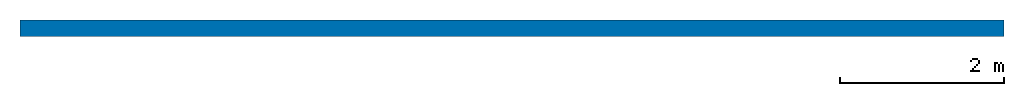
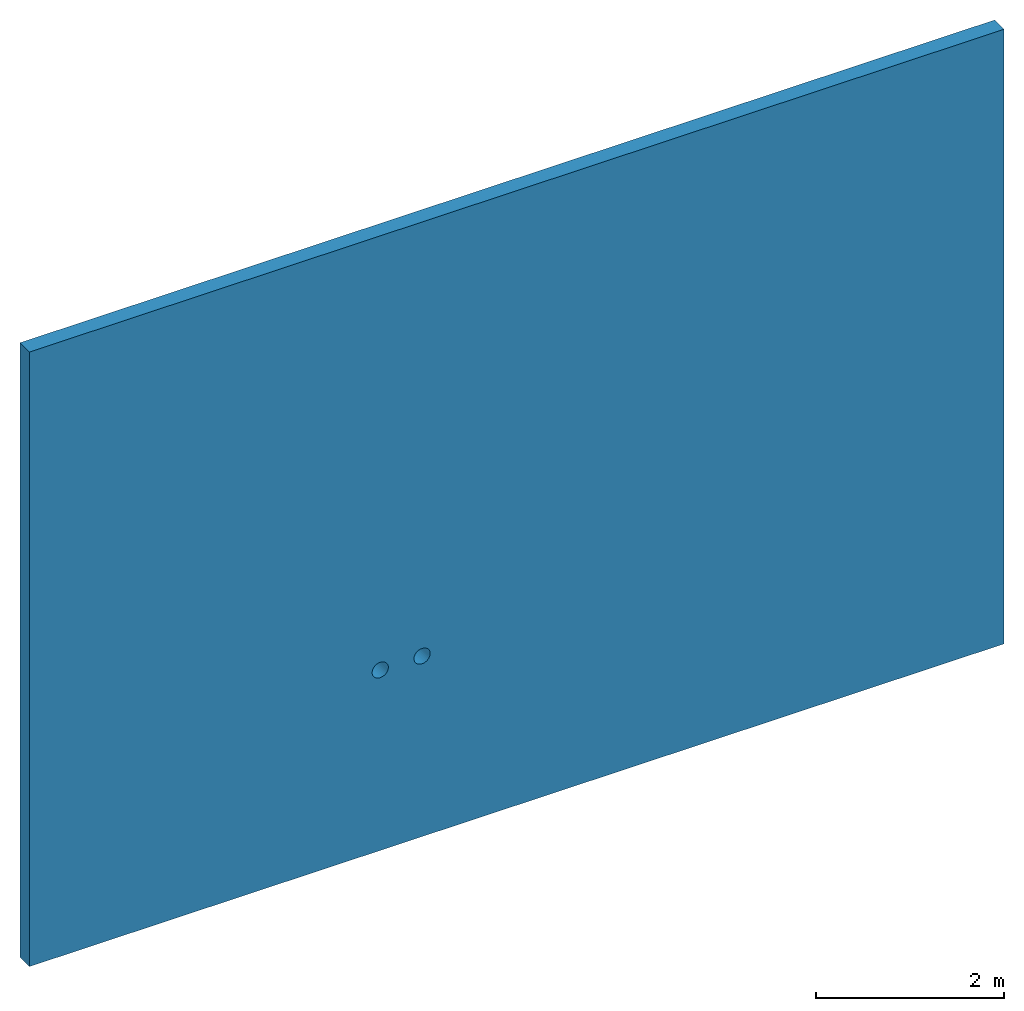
# One storey, incomplete: 1 wall, 2 openings.
"""IFC2X3 building model written with IfcOpenShell, lengths in millimetres."""

from ifc_helpers import new_model, entity, si_unit, converted_unit, derived_unit, direction, frame, frame_2d, origin, place, context, subcontext, project, spatial, rectangle, circle, extrude, material, layer, layer_set, layer_usage, type_object, element, save


model = new_model("IFC2X3")

# Units and contexts
model_context = context("Model", 3, precision=0.01, world=origin(), true_north=direction((6.12303176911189e-17, 1.0)))
context_of_model = context(None, 3, precision=0.01, world=origin(), true_north=direction((6.12303176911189e-17, 1.0)))
body_context = subcontext(model_context, "Body", "Model", "MODEL_VIEW")
ifc_project = project(units=[si_unit("LENGTHUNIT", "METRE", prefix="MILLI"), si_unit("AREAUNIT", "SQUARE_METRE"), si_unit("VOLUMEUNIT", "CUBIC_METRE"), converted_unit("PLANEANGLEUNIT", "DEGREE", entity("IfcRatioMeasure", 0.0174532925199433), si_unit("PLANEANGLEUNIT", "RADIAN"), dimensions=[0, 0, 0, 0, 0, 0, 0]), si_unit("MASSUNIT", "GRAM", prefix="KILO"), derived_unit("MASSDENSITYUNIT", [(si_unit("MASSUNIT", "GRAM", prefix="KILO"), 1), (si_unit("LENGTHUNIT", "METRE"), -3)]), si_unit("TIMEUNIT", "SECOND"), si_unit("FREQUENCYUNIT", "HERTZ"), si_unit("THERMODYNAMICTEMPERATUREUNIT", "DEGREE_CELSIUS"), derived_unit("THERMALTRANSMITTANCEUNIT", [(si_unit("MASSUNIT", "GRAM", prefix="KILO"), 1), (si_unit("THERMODYNAMICTEMPERATUREUNIT", "KELVIN"), -1), (si_unit("TIMEUNIT", "SECOND"), -3)]), derived_unit("VOLUMETRICFLOWRATEUNIT", [(si_unit("LENGTHUNIT", "METRE"), 3), (si_unit("TIMEUNIT", "SECOND"), -1)]), si_unit("ELECTRICCURRENTUNIT", "AMPERE"), si_unit("ELECTRICVOLTAGEUNIT", "VOLT"), si_unit("POWERUNIT", "WATT"), si_unit("FORCEUNIT", "NEWTON", prefix="KILO"), si_unit("ILLUMINANCEUNIT", "LUX"), si_unit("LUMINOUSFLUXUNIT", "LUMEN"), si_unit("LUMINOUSINTENSITYUNIT", "CANDELA"), derived_unit("USERDEFINED", [(si_unit("MASSUNIT", "GRAM", prefix="KILO"), -1), (si_unit("LENGTHUNIT", "METRE"), -2), (si_unit("TIMEUNIT", "SECOND"), 3), (si_unit("LUMINOUSFLUXUNIT", "LUMEN"), 1)]), derived_unit("LINEARVELOCITYUNIT", [(si_unit("LENGTHUNIT", "METRE"), 1), (si_unit("TIMEUNIT", "SECOND"), -1)]), si_unit("PRESSUREUNIT", "PASCAL"), derived_unit("USERDEFINED", [(si_unit("LENGTHUNIT", "METRE"), -2), (si_unit("MASSUNIT", "GRAM", prefix="KILO"), 1), (si_unit("TIMEUNIT", "SECOND"), -2)])], contexts=[model_context, context_of_model])

# Site, building, storey
site_placement = place(None, origin())
site = spatial("IfcSite", under=ifc_project, at=site_placement, Name="Default", CompositionType="ELEMENT")
building_placement = place(site_placement, origin())
building = spatial("IfcBuilding", under=site, at=building_placement, CompositionType="ELEMENT")
storey_placement = place(building_placement, origin())
storey = spatial("IfcBuildingStorey", under=building, at=storey_placement, Name="Livello 1", CompositionType="ELEMENT", Elevation=0.0)

# Wall, openings
ifc_material = material(Name="Muro di default")
ifc_layer = layer(ifc_material, 200.0)
ifc_layer_set = layer_set([ifc_layer], Name="Muro di base:Generico - 200 mm")
ifc_layer_usage = layer_usage(ifc_layer_set, "AXIS2", "NEGATIVE", 100.0)
wall_type = type_object("IfcWallType", Name="Muro di base:Generico - 200 mm", PredefinedType="STANDARD", material=ifc_layer_set)
wall_placement = place(storey_placement, frame((-5596.51663203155, 1428.63403264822, 0.0)))
wall = element("IfcWallStandardCase", 1, at=wall_placement, inside=storey, type_object=wall_type, material=ifc_layer_usage, Name="Muro di base:Generico - 200 mm", ObjectType="Muro di base:Generico - 200 mm", context=body_context, shape_type="SweptSolid", body=[
    extrude(rectangle(XDim=12000.0, YDim=200.0, at=frame_2d((6000.0, -5.6843418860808e-14), x_axis=(-1.0, 0.0))), origin(), (0.0, 0.0, 1.0), 8000.0),
])
opening_1_placement = place(wall_placement, origin())
element("IfcOpeningElement", 2, at=opening_1_placement, cuts=wall, Name="Muro di base:Generico - 200 mm", ObjectType="Opening", context=body_context, shape_type="SweptSolid", body=[
    extrude(circle(Radius=100.0, at=frame_2d((0.0, -2.70716782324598e-13), x_axis=(1.0, 0.0))), frame((4320.0, -1424.0, 2349.5), z_axis=(0.0, 1.0, 0.0), x_axis=(1.0, 0.0, 0.0)), (0.0, 0.0, 1.0), 3048.0),
])
opening_2_placement = place(wall_placement, origin())
element("IfcOpeningElement", 3, at=opening_2_placement, cuts=wall, Name="Muro di base:Generico - 200 mm", ObjectType="Opening", context=body_context, shape_type="SweptSolid", body=[
    extrude(circle(Radius=100.0, at=frame_2d((-1.75094987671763e-27, -2.70716782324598e-13), x_axis=(1.0, 0.0))), frame((4835.0, -1424.0, 2349.5), z_axis=(0.0, 1.0, 0.0), x_axis=(-1.0, 0.0, 0.0)), (0.0, 0.0, 1.0), 3048.0),
])

save(model, "model.ifc")
